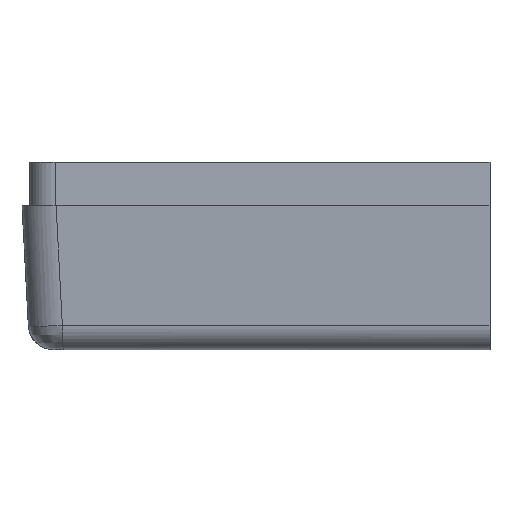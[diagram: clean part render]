
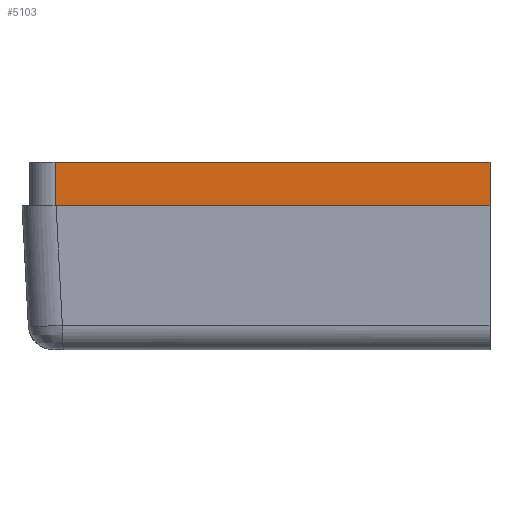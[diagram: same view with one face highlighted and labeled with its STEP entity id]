
A CAD part, front view. The second image highlights one B-rep face of the part: STEP entity #5103.
In plain terms, the highlighted planar face has unit normal (0, -1, 0).
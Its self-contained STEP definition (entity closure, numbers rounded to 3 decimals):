
#1737 = PLANE('',#1738);
#1738 = AXIS2_PLACEMENT_3D('',#1739,#1740,#1741);
#1739 = CARTESIAN_POINT('',(53.,90.571,0.));
#1740 = DIRECTION('',(-1.,0.,0.));
#1741 = DIRECTION('',(0.,1.,0.));
#2550 = VERTEX_POINT('',#2551);
#2551 = CARTESIAN_POINT('',(53.,161.053,16.9));
#2565 = PLANE('',#2566);
#2566 = AXIS2_PLACEMENT_3D('',#2567,#2568,#2569);
#2567 = CARTESIAN_POINT('',(174.436,196.68,16.9));
#2568 = DIRECTION('',(0.,0.,1.));
#2569 = DIRECTION('',(1.,0.,0.));
#2577 = EDGE_CURVE('',#2550,#2578,#2580,.T.);
#2578 = VERTEX_POINT('',#2579);
#2579 = CARTESIAN_POINT('',(53.,161.053,22.));
#2580 = SURFACE_CURVE('',#2581,(#2585,#2592),.PCURVE_S1.);
#2581 = LINE('',#2582,#2583);
#2582 = CARTESIAN_POINT('',(53.,161.053,8.45));
#2583 = VECTOR('',#2584,1.);
#2584 = DIRECTION('',(0.,0.,1.));
#2585 = PCURVE('',#1737,#2586);
#2586 = DEFINITIONAL_REPRESENTATION('',(#2587),#2591);
#2587 = LINE('',#2588,#2589);
#2588 = CARTESIAN_POINT('',(70.482,-8.45));
#2589 = VECTOR('',#2590,1.);
#2590 = DIRECTION('',(0.,-1.));
#2591 = ( GEOMETRIC_REPRESENTATION_CONTEXT(2) 
PARAMETRIC_REPRESENTATION_CONTEXT() REPRESENTATION_CONTEXT('2D SPACE',''
  ) );
#2592 = PCURVE('',#2593,#2598);
#2593 = PLANE('',#2594);
#2594 = AXIS2_PLACEMENT_3D('',#2595,#2596,#2597);
#2595 = CARTESIAN_POINT('',(-1.,161.053,16.9));
#2596 = DIRECTION('',(0.,1.,0.));
#2597 = DIRECTION('',(1.,0.,0.));
#2598 = DEFINITIONAL_REPRESENTATION('',(#2599),#2603);
#2599 = LINE('',#2600,#2601);
#2600 = CARTESIAN_POINT('',(54.,8.45));
#2601 = VECTOR('',#2602,1.);
#2602 = DIRECTION('',(0.,-1.));
#2603 = ( GEOMETRIC_REPRESENTATION_CONTEXT(2) 
PARAMETRIC_REPRESENTATION_CONTEXT() REPRESENTATION_CONTEXT('2D SPACE',''
  ) );
#2621 = PLANE('',#2622);
#2622 = AXIS2_PLACEMENT_3D('',#2623,#2624,#2625);
#2623 = CARTESIAN_POINT('',(343.153,255.806,22.));
#2624 = DIRECTION('',(0.,0.,1.));
#2625 = DIRECTION('',(-0.964,-0.268,0.));
#4973 = VERTEX_POINT('',#4974);
#4974 = CARTESIAN_POINT('',(2.,161.053,22.));
#4989 = CYLINDRICAL_SURFACE('',#4990,3.);
#4990 = AXIS2_PLACEMENT_3D('',#4991,#4992,#4993);
#4991 = CARTESIAN_POINT('',(2.,164.053,16.9));
#4992 = DIRECTION('',(0.,0.,1.));
#4993 = DIRECTION('',(-1.,0.,0.));
#5001 = EDGE_CURVE('',#2578,#4973,#5002,.T.);
#5002 = SURFACE_CURVE('',#5003,(#5007,#5014),.PCURVE_S1.);
#5003 = LINE('',#5004,#5005);
#5004 = CARTESIAN_POINT('',(171.076,161.053,22.));
#5005 = VECTOR('',#5006,1.);
#5006 = DIRECTION('',(-1.,0.,0.));
#5007 = PCURVE('',#2621,#5008);
#5008 = DEFINITIONAL_REPRESENTATION('',(#5009),#5013);
#5009 = LINE('',#5010,#5011);
#5010 = CARTESIAN_POINT('',(191.157,45.247));
#5011 = VECTOR('',#5012,1.);
#5012 = DIRECTION('',(0.964,-0.268));
#5013 = ( GEOMETRIC_REPRESENTATION_CONTEXT(2) 
PARAMETRIC_REPRESENTATION_CONTEXT() REPRESENTATION_CONTEXT('2D SPACE',''
  ) );
#5014 = PCURVE('',#2593,#5015);
#5015 = DEFINITIONAL_REPRESENTATION('',(#5016),#5020);
#5016 = LINE('',#5017,#5018);
#5017 = CARTESIAN_POINT('',(172.076,-5.1));
#5018 = VECTOR('',#5019,1.);
#5019 = DIRECTION('',(-1.,0.));
#5020 = ( GEOMETRIC_REPRESENTATION_CONTEXT(2) 
PARAMETRIC_REPRESENTATION_CONTEXT() REPRESENTATION_CONTEXT('2D SPACE',''
  ) );
#5103 = ADVANCED_FACE('',(#5104),#2593,.F.);
#5104 = FACE_BOUND('',#5105,.F.);
#5105 = EDGE_LOOP('',(#5106,#5129,#5150,#5151));
#5106 = ORIENTED_EDGE('',*,*,#5107,.F.);
#5107 = EDGE_CURVE('',#5108,#2550,#5110,.T.);
#5108 = VERTEX_POINT('',#5109);
#5109 = CARTESIAN_POINT('',(2.,161.053,16.9));
#5110 = SURFACE_CURVE('',#5111,(#5115,#5122),.PCURVE_S1.);
#5111 = LINE('',#5112,#5113);
#5112 = CARTESIAN_POINT('',(-1.,161.053,16.9));
#5113 = VECTOR('',#5114,1.);
#5114 = DIRECTION('',(1.,0.,0.));
#5115 = PCURVE('',#2593,#5116);
#5116 = DEFINITIONAL_REPRESENTATION('',(#5117),#5121);
#5117 = LINE('',#5118,#5119);
#5118 = CARTESIAN_POINT('',(0.,0.));
#5119 = VECTOR('',#5120,1.);
#5120 = DIRECTION('',(1.,0.));
#5121 = ( GEOMETRIC_REPRESENTATION_CONTEXT(2) 
PARAMETRIC_REPRESENTATION_CONTEXT() REPRESENTATION_CONTEXT('2D SPACE',''
  ) );
#5122 = PCURVE('',#2565,#5123);
#5123 = DEFINITIONAL_REPRESENTATION('',(#5124),#5128);
#5124 = LINE('',#5125,#5126);
#5125 = CARTESIAN_POINT('',(-175.436,-35.627));
#5126 = VECTOR('',#5127,1.);
#5127 = DIRECTION('',(1.,0.));
#5128 = ( GEOMETRIC_REPRESENTATION_CONTEXT(2) 
PARAMETRIC_REPRESENTATION_CONTEXT() REPRESENTATION_CONTEXT('2D SPACE',''
  ) );
#5129 = ORIENTED_EDGE('',*,*,#5130,.T.);
#5130 = EDGE_CURVE('',#5108,#4973,#5131,.T.);
#5131 = SURFACE_CURVE('',#5132,(#5136,#5143),.PCURVE_S1.);
#5132 = LINE('',#5133,#5134);
#5133 = CARTESIAN_POINT('',(2.,161.053,16.9));
#5134 = VECTOR('',#5135,1.);
#5135 = DIRECTION('',(0.,0.,1.));
#5136 = PCURVE('',#2593,#5137);
#5137 = DEFINITIONAL_REPRESENTATION('',(#5138),#5142);
#5138 = LINE('',#5139,#5140);
#5139 = CARTESIAN_POINT('',(3.,0.));
#5140 = VECTOR('',#5141,1.);
#5141 = DIRECTION('',(0.,-1.));
#5142 = ( GEOMETRIC_REPRESENTATION_CONTEXT(2) 
PARAMETRIC_REPRESENTATION_CONTEXT() REPRESENTATION_CONTEXT('2D SPACE',''
  ) );
#5143 = PCURVE('',#4989,#5144);
#5144 = DEFINITIONAL_REPRESENTATION('',(#5145),#5149);
#5145 = LINE('',#5146,#5147);
#5146 = CARTESIAN_POINT('',(1.571,0.));
#5147 = VECTOR('',#5148,1.);
#5148 = DIRECTION('',(0.,1.));
#5149 = ( GEOMETRIC_REPRESENTATION_CONTEXT(2) 
PARAMETRIC_REPRESENTATION_CONTEXT() REPRESENTATION_CONTEXT('2D SPACE',''
  ) );
#5150 = ORIENTED_EDGE('',*,*,#5001,.F.);
#5151 = ORIENTED_EDGE('',*,*,#2577,.F.);
